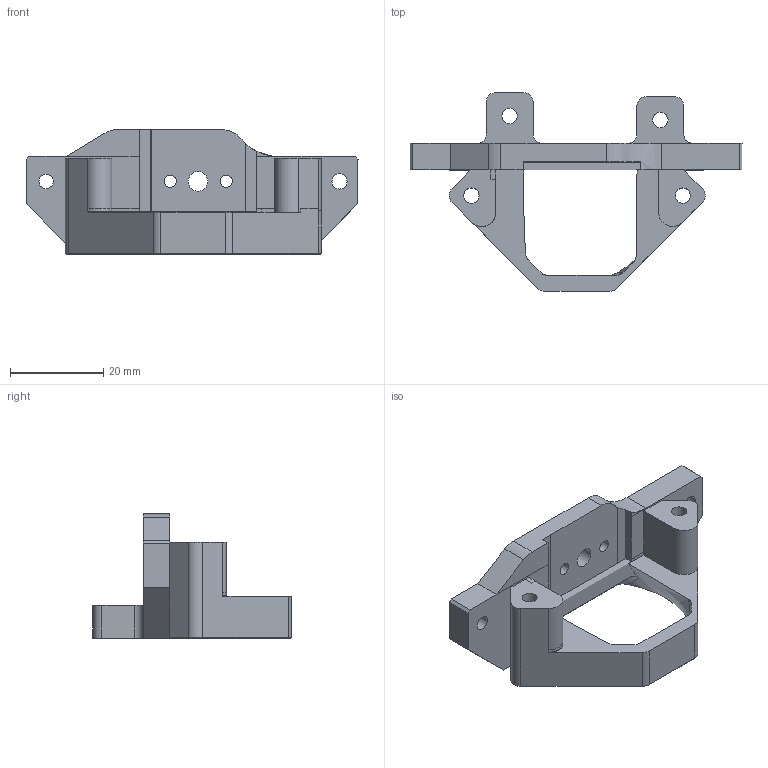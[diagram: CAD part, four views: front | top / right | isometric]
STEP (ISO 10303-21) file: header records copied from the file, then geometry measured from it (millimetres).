
FILE_DESCRIPTION(/* description */ (''),/* implementation_level */ '2;1');
FILE_NAME(/* name */ 'mount-tbg-lite-mosquito-2.1.step',/* time_stamp */ '2023-01-19T18:45:27+01:00',/* author */ (''),/* organization */ (''),/* preprocessor_version */ 'ST-DEVELOPER v19.2',/* originating_system */ 'Autodesk Translation Framework v11.17.0.187',/* authorisation */ '');
FILE_SCHEMA (('AUTOMOTIVE_DESIGN { 1 0 10303 214 3 1 1 }'));
Length unit declared in the file: millimetre
Products named in the file (1): mount-tbg-lite-mosquito-2.1
Bounding box: 71.07 x 42.54 x 26.66 mm (x, y, z)
Volume: 14040.4 mm3; surface area: 8083.8 mm2
Topology: 1 solids, 1 shells, 116 faces, 330 edges, 215 vertices
Faces by surface type: plane 62, cylinder 32, bspline 14, cone 8
Full cylindrical faces by diameter (mm): 2.6 x2, 3.1 x1, 3.25 x4, 3.3 x2, 4.2 x1, 4.6 x2
Entity records: 4523 total; most frequent: CARTESIAN_POINT 1485, ORIENTED_EDGE 654, DIRECTION 576, EDGE_CURVE 327, VERTEX_POINT 214, LINE 208, VECTOR 208, AXIS2_PLACEMENT_3D 184
